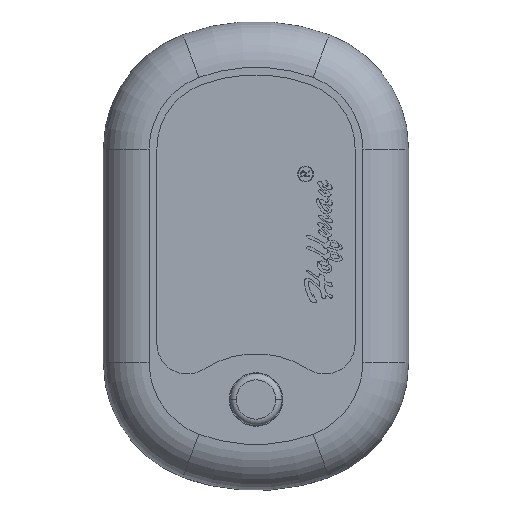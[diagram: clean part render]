
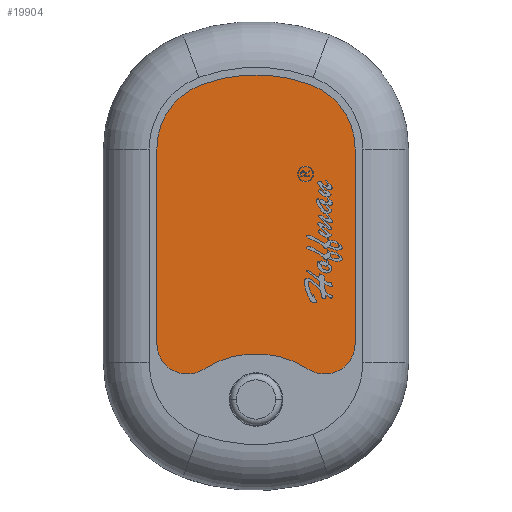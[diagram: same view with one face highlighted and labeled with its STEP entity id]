
A CAD part, top view. The second image highlights one B-rep face of the part: STEP entity #19904.
In plain terms, the highlighted planar face has unit normal (0, 0, 1).
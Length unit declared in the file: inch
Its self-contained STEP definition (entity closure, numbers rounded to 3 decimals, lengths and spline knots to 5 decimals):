
#123 = VERTEX_POINT ( 'NONE', #22183 ) ;
#557 = CIRCLE ( 'NONE', #5537, 0.562 ) ;
#859 = CIRCLE ( 'NONE', #5509, 0.25 ) ;
#1239 = AXIS2_PLACEMENT_3D ( 'NONE', #14897, #14000, #14070 ) ;
#1642 = ORIENTED_EDGE ( 'NONE', *, *, #12664, .T. ) ;
#1956 = CARTESIAN_POINT ( 'NONE',  ( 0.00045, -1.85836, 0.025 ) ) ;
#2039 = DIRECTION ( 'NONE',  ( -1., 0., 0. ) ) ;
#2367 = CARTESIAN_POINT ( 'NONE',  ( -0.24955, 0.59887, 0.025 ) ) ;
#2414 = CARTESIAN_POINT ( 'NONE',  ( 0.00045, -0.07307, 0.025 ) ) ;
#2478 = DIRECTION ( 'NONE',  ( 0., 0., 1. ) ) ;
#2596 = DIRECTION ( 'NONE',  ( 0., 0., 1. ) ) ;
#2606 = DIRECTION ( 'NONE',  ( 1., 0., 0. ) ) ;
#2754 = DIRECTION ( 'NONE',  ( 1., 0., 0. ) ) ;
#2801 = CARTESIAN_POINT ( 'NONE',  ( -0.81155, 0.59887, 0.025 ) ) ;
#2904 = DIRECTION ( 'NONE',  ( -1., 0., 0. ) ) ;
#2957 = DIRECTION ( 'NONE',  ( 0., 0., -1. ) ) ;
#3083 = CARTESIAN_POINT ( 'NONE',  ( 0.56245, -0.994, 0.025 ) ) ;
#3096 = DIRECTION ( 'NONE',  ( 0., 0., 1. ) ) ;
#3166 = DIRECTION ( 'NONE',  ( 0., -1., 0. ) ) ;
#4894 = EDGE_CURVE ( 'NONE', #21601, #22086, #557, .T. ) ;
#4911 = EDGE_CURVE ( 'NONE', #22652, #21601, #9267, .T. ) ;
#4991 = EDGE_LOOP ( 'NONE', ( #9506, #9794, #9788, #9706, #9761, #9642, #1642, #9668 ) ) ;
#5509 = AXIS2_PLACEMENT_3D ( 'NONE', #16529, #16515, #17046 ) ;
#5537 = AXIS2_PLACEMENT_3D ( 'NONE', #18870, #19638, #18714 ) ;
#5698 = AXIS2_PLACEMENT_3D ( 'NONE', #3083, #3096, #2904 ) ;
#9267 = LINE ( 'NONE', #19805, #9383 ) ;
#9383 = VECTOR ( 'NONE', #19557, 39.37008 ) ;
#9506 = ORIENTED_EDGE ( 'NONE', *, *, #12997, .T. ) ;
#9642 = ORIENTED_EDGE ( 'NONE', *, *, #13117, .T. ) ;
#9668 = ORIENTED_EDGE ( 'NONE', *, *, #13143, .T. ) ;
#9706 = ORIENTED_EDGE ( 'NONE', *, *, #13404, .T. ) ;
#9761 = ORIENTED_EDGE ( 'NONE', *, *, #13441, .T. ) ;
#9788 = ORIENTED_EDGE ( 'NONE', *, *, #4894, .T. ) ;
#9794 = ORIENTED_EDGE ( 'NONE', *, *, #4911, .T. ) ;
#9807 = AXIS2_PLACEMENT_3D ( 'NONE', #2367, #2478, #2754 ) ;
#10159 = FACE_OUTER_BOUND ( 'NONE', #4991, .T. ) ;
#11548 = VECTOR ( 'NONE', #3166, 39.37008 ) ;
#11615 = CIRCLE ( 'NONE', #5698, 0.25 ) ;
#11698 = CIRCLE ( 'NONE', #11885, 0.781 ) ;
#11875 = LINE ( 'NONE', #2801, #11548 ) ;
#11885 = AXIS2_PLACEMENT_3D ( 'NONE', #1956, #2957, #2039 ) ;
#11978 = CARTESIAN_POINT ( 'NONE',  ( -0.81155, -0.994, 0.025 ) ) ;
#12182 = CARTESIAN_POINT ( 'NONE',  ( -0.81155, 0.59887, 0.025 ) ) ;
#12296 = CARTESIAN_POINT ( 'NONE',  ( 0.44642, 1.1256, 0.025 ) ) ;
#12450 = CARTESIAN_POINT ( 'NONE',  ( -0.42527, -1.20359, 0.025 ) ) ;
#12605 = CARTESIAN_POINT ( 'NONE',  ( 0.81245, -0.994, 0.025 ) ) ;
#12664 = EDGE_CURVE ( 'NONE', #21777, #22720, #859, .T. ) ;
#12997 = EDGE_CURVE ( 'NONE', #123, #22652, #11615, .T. ) ;
#13105 = AXIS2_PLACEMENT_3D ( 'NONE', #2414, #2596, #2606 ) ;
#13117 = EDGE_CURVE ( 'NONE', #21842, #21777, #11875, .T. ) ;
#13143 = EDGE_CURVE ( 'NONE', #22720, #123, #11698, .T. ) ;
#13404 = EDGE_CURVE ( 'NONE', #22086, #21568, #13490, .T. ) ;
#13441 = EDGE_CURVE ( 'NONE', #21568, #21842, #13540, .T. ) ;
#13490 = CIRCLE ( 'NONE', #13105, 1.27894 ) ;
#13540 = CIRCLE ( 'NONE', #9807, 0.562 ) ;
#14000 = DIRECTION ( 'NONE',  ( 0., 0., -1. ) ) ;
#14070 = DIRECTION ( 'NONE',  ( -1., 0., 0. ) ) ;
#14112 = CARTESIAN_POINT ( 'NONE',  ( 0.81245, 0.59887, 0.025 ) ) ;
#14608 = CARTESIAN_POINT ( 'NONE',  ( -0.44552, 1.1256, 0.025 ) ) ;
#14897 = CARTESIAN_POINT ( 'NONE',  ( 0.56245, -0.994, 0.025 ) ) ;
#15111 = PLANE ( 'NONE',  #1239 ) ;
#16515 = DIRECTION ( 'NONE',  ( 0., 0., 1. ) ) ;
#16529 = CARTESIAN_POINT ( 'NONE',  ( -0.56155, -0.994, 0.025 ) ) ;
#17046 = DIRECTION ( 'NONE',  ( 1., 0., 0. ) ) ;
#18714 = DIRECTION ( 'NONE',  ( 1., 0., 0. ) ) ;
#18870 = CARTESIAN_POINT ( 'NONE',  ( 0.25045, 0.59887, 0.025 ) ) ;
#19557 = DIRECTION ( 'NONE',  ( 0., 1., 0. ) ) ;
#19638 = DIRECTION ( 'NONE',  ( 0., 0., 1. ) ) ;
#19805 = CARTESIAN_POINT ( 'NONE',  ( 0.81245, 0.59887, 0.025 ) ) ;
#19904 = ADVANCED_FACE ( 'NONE', ( #10159 ), #15111, .F. ) ;
#21568 = VERTEX_POINT ( 'NONE', #14608 ) ;
#21601 = VERTEX_POINT ( 'NONE', #14112 ) ;
#21777 = VERTEX_POINT ( 'NONE', #11978 ) ;
#21842 = VERTEX_POINT ( 'NONE', #12182 ) ;
#22086 = VERTEX_POINT ( 'NONE', #12296 ) ;
#22183 = CARTESIAN_POINT ( 'NONE',  ( 0.42618, -1.20359, 0.025 ) ) ;
#22652 = VERTEX_POINT ( 'NONE', #12605 ) ;
#22720 = VERTEX_POINT ( 'NONE', #12450 ) ;
